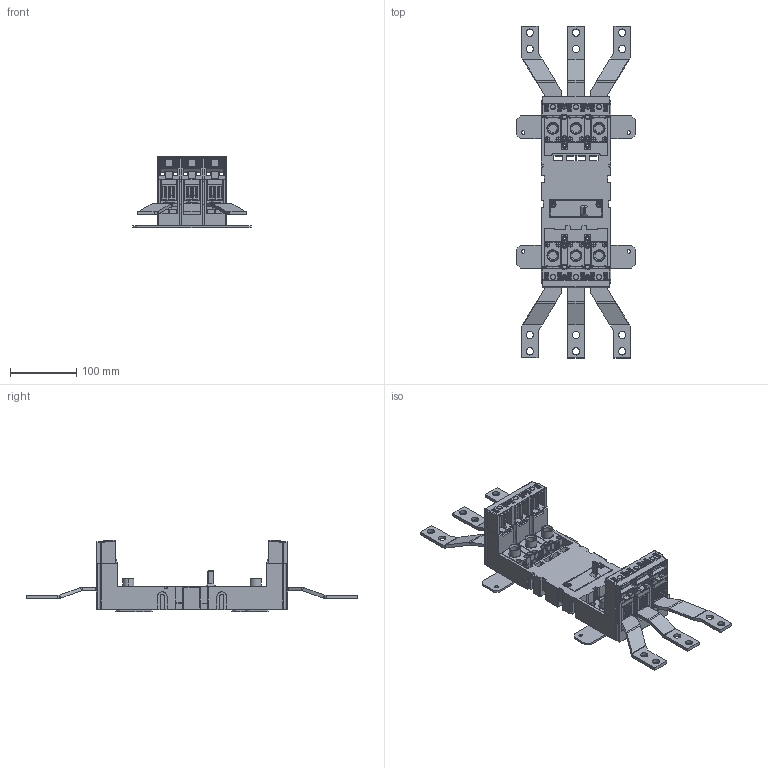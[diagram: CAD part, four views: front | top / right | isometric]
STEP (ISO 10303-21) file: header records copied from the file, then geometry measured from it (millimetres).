
FILE_DESCRIPTION (( 'STEP AP214' ), '1' );
FILE_NAME ('ZO-BD-0250-300__CS-BD-JX75__OD-BHD-MS75_zj_02.step', '2013-08-20T12:03:32', ( '' ), ( '' ), 'SwSTEP 2.0', 'SolidWorks 2011', '' );
FILE_SCHEMA (( 'AUTOMOTIVE_DESIGN' ));
Length unit declared in the file: millimetre
Products named in the file (1): ZO-BD-0250-300__CS-BD-JX75__OD-BHD-MS75_zj_02
Bounding box: 180 x 503 x 108 mm (x, y, z)
Volume: 1135408.1 mm3; surface area: 436666.9 mm2
Topology: 11 solids, 36 shells, 5256 faces, 14028 edges, 8852 vertices
Faces by surface type: plane 3000, cylinder 1747, sphere 193, torus 138, cone 121, bspline 57
Entity records: 225263 total; most frequent: CARTESIAN_POINT 36721, ORIENTED_EDGE 27668, DIRECTION 26837, EDGE_CURVE 13834, VECTOR 9317, LINE 9317, VERTEX_POINT 8852, AXIS2_PLACEMENT_3D 8760
